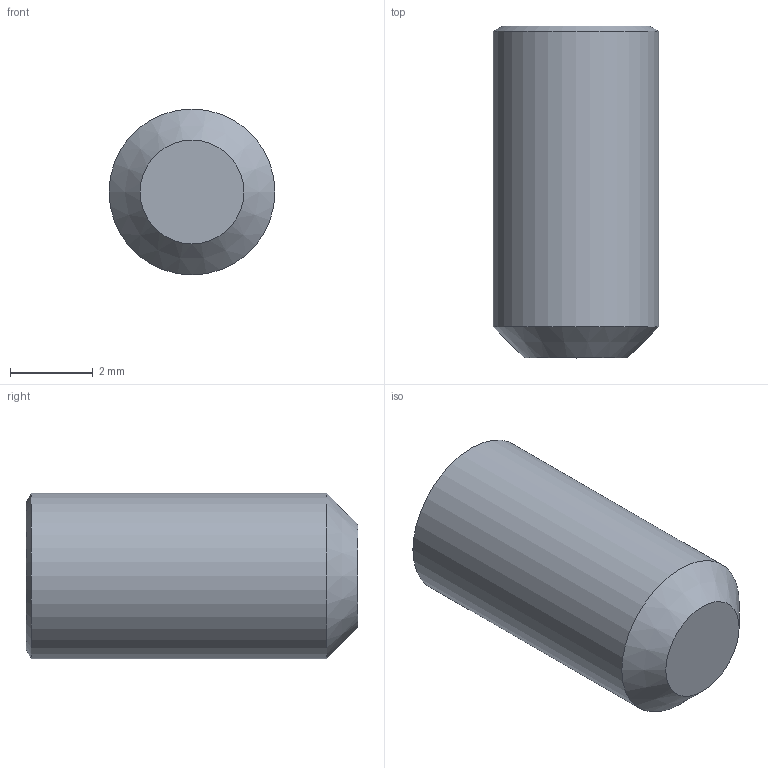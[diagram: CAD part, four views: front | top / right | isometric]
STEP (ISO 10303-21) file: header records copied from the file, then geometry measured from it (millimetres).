
FILE_DESCRIPTION(/* description */ (''),/* implementation_level */ '2;1');
FILE_NAME(/* name */ 'C:\Users\D\Documents\Inventor\各種小物\JIS\止めねじ\平先\M4\M4x8.stp',/* time_stamp */ '2022-06-23T14:24:14+09:00',/* author */ ('D'),/* organization */ (''),/* preprocessor_version */ 'ST-DEVELOPER v18',/* originating_system */ 'Autodesk Inventor 2020',/* authorisation */ '');
FILE_SCHEMA (('AUTOMOTIVE_DESIGN { 1 0 10303 214 3 1 1 }'));
Length unit declared in the file: millimetre
Products named in the file (1): M1.6x2
Bounding box: 4 x 8 x 4 mm (x, y, z)
Volume: 87.7 mm3; surface area: 136.5 mm2
Topology: 1 solids, 1 shells, 12 faces, 28 edges, 18 vertices
Faces by surface type: plane 8, cone 3, cylinder 1
Full cylindrical faces by diameter (mm): 4 x1
Entity records: 369 total; most frequent: CARTESIAN_POINT 72, ORIENTED_EDGE 54, DIRECTION 50, EDGE_CURVE 27, VERTEX_POINT 18, AXIS2_PLACEMENT_3D 17, LINE 16, VECTOR 16
